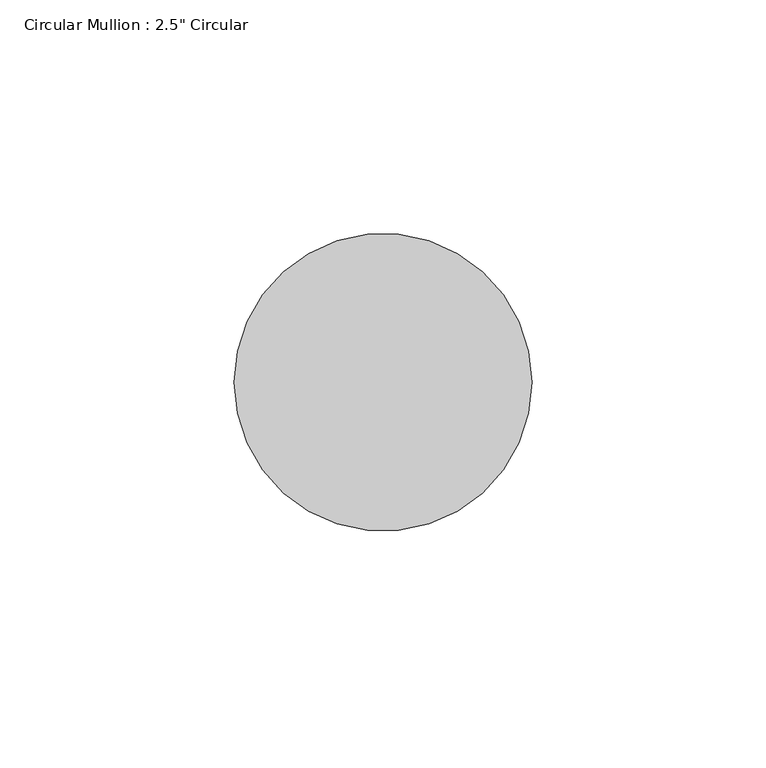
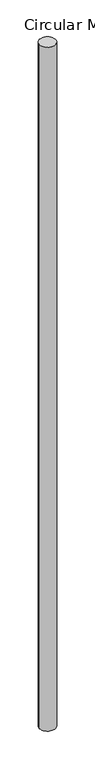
"""IFC4 building model written with IfcOpenShell, lengths in millimetres: member geometry."""

from ifc_helpers import new_model, si_unit, point, frame, origin, origin_2d, place, context, project, spatial, circle_curve, trimmed, segment, composite_curve, outline, extrude, source, transform, mapped, element, save


def member_93b0810e(model_context):
    return source(origin(), model_context, "Body", "SweptSolid", [
        extrude(outline(composite_curve([segment(trimmed(circle_curve(origin_2d(), 31.75), [point((31.75, 0.0))], [point((-31.75, 0.0))], False, "CARTESIAN"), True, "CONTINUOUS"), segment(trimmed(circle_curve(origin_2d(), 31.75), [point((-31.75, 0.0))], [point((31.75, 0.0))], False, "CARTESIAN"), True, "CONTINUOUS")], self_intersect=False)), frame((0.0, 0.0, -2886.8765713), z_axis=(0.0, 0.0, 1.0), x_axis=(1.0, 0.0, 0.0)), (0.0, 0.0, 1.0), 2886.8765713),
    ])


if __name__ == "__main__":
    model = new_model("IFC4")
    model_context = context("Model", 3, world=origin())
    ifc_project = project(units=[si_unit("LENGTHUNIT", "METRE", prefix="MILLI")], contexts=[model_context])
    site = spatial("IfcSite", under=ifc_project)
    building = spatial("IfcBuilding", under=site)
    placement = place(None, origin())
    member_shape = member_93b0810e(model_context)
    element("IfcMember", 1, ObjectType="Circular Mullion : 2.5\" Circular", at=placement, inside=building, context=model_context, shape_type="MappedRepresentation", body=[
        mapped(member_shape, transform((0.0, 0.0, 0.0), x_axis=(1.0, 0.0, 0.0), y_axis=(0.0, 1.0, 0.0), z_axis=(0.0, 0.0, 1.0))),
    ])
    save(model, "model.ifc")
